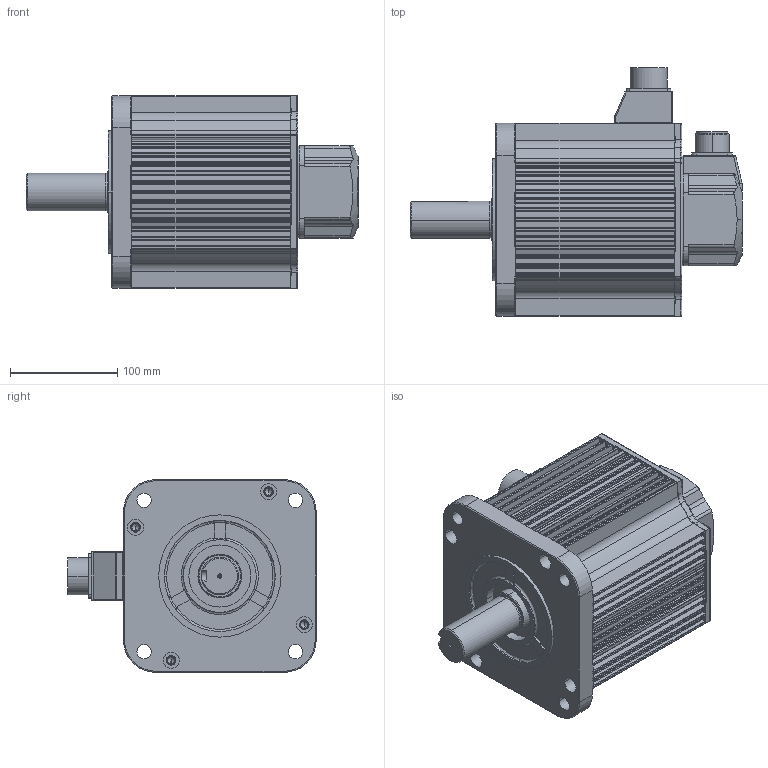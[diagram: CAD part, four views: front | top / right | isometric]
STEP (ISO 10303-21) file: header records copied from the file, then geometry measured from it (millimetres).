
FILE_DESCRIPTION (( 'STEP AP203' ), '1' );
FILE_NAME ('KANH-40B(NB).STEP', '2026-09-12T02:58:07', ( '' ), ( '' ), 'SwSTEP 2.0', 'SolidWorks 2023', '' );
FILE_SCHEMA (( 'CONFIG_CONTROL_DESIGN' ));
Length unit declared in the file: millimetre
Products named in the file (11): KANH-40B(NB); Ø35-KEY10X50; □180-151.5mm(4.0kW,NB,MS22); MS3102A 20-29P; MS3102A 22_표준; □180 FLANGE; 10050523 GASKET_돌출형; 10050908 CONNECTOR BOX_MS22 or MS24; 10050907 RUBBER SEAL_MS22 or MS24; 1005052200 ENCODER COVER; □180 BRACKET_BR
Assembly tree (10 placements, depth 2):
  KANH-40B(NB)
    Ø35-KEY10X50
    □180 FLANGE
    □180-151.5mm(4.0kW,NB,MS22)
    □180 BRACKET_BR
    1005052200 ENCODER COVER
    10050523 GASKET_돌출형
    MS3102A 20-29P
    10050907 RUBBER SEAL_MS22 or MS24
    10050908 CONNECTOR BOX_MS22 or MS24
    MS3102A 22_표준
Bounding box: 310.2 x 232.05 x 180 mm (x, y, z)
Volume: 1522936.7 mm3; surface area: 538301.3 mm2
Topology: 10 solids, 10 shells, 1764 faces, 4830 edges, 3140 vertices
Faces by surface type: cylinder 912, plane 605, torus 122, cone 88, bspline 35, sphere 2
Entity records: 60348 total; most frequent: CARTESIAN_POINT 13359, DIRECTION 10018, ORIENTED_EDGE 9588, EDGE_CURVE 4794, AXIS2_PLACEMENT_3D 3855, VERTEX_POINT 3140, LINE 2308, VECTOR 2308
